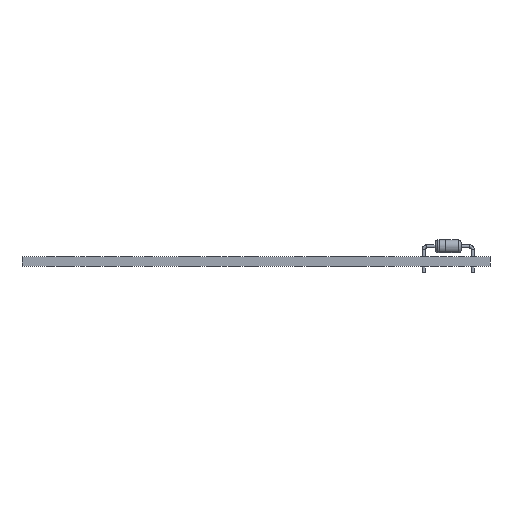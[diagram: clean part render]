
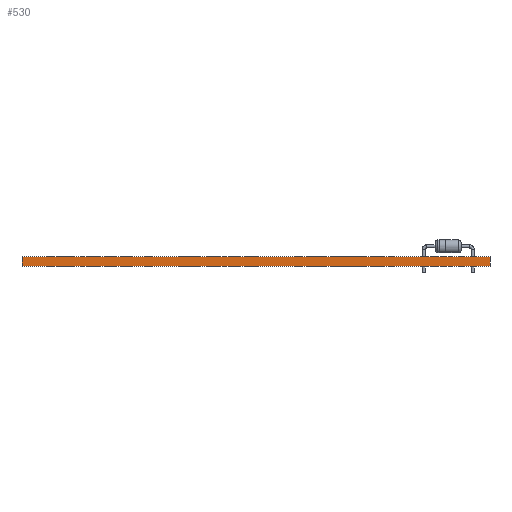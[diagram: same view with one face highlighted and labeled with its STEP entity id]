
A CAD part, front view. The second image highlights one B-rep face of the part: STEP entity #530.
In plain terms, the highlighted planar face has unit normal (0, -1, 0).
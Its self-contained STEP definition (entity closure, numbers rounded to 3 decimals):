
#530 = ADVANCED_FACE('',(#531),#565,.T.);
#531 = FACE_BOUND('',#532,.T.);
#532 = EDGE_LOOP('',(#533,#543,#551,#559));
#533 = ORIENTED_EDGE('',*,*,#534,.T.);
#534 = EDGE_CURVE('',#535,#537,#539,.T.);
#535 = VERTEX_POINT('',#536);
#536 = CARTESIAN_POINT('',(149.5,-155.5,0.));
#537 = VERTEX_POINT('',#538);
#538 = CARTESIAN_POINT('',(149.5,-155.5,1.51));
#539 = LINE('',#540,#541);
#540 = CARTESIAN_POINT('',(149.5,-155.5,0.));
#541 = VECTOR('',#542,1.);
#542 = DIRECTION('',(0.,0.,1.));
#543 = ORIENTED_EDGE('',*,*,#544,.T.);
#544 = EDGE_CURVE('',#537,#545,#547,.T.);
#545 = VERTEX_POINT('',#546);
#546 = CARTESIAN_POINT('',(76.75,-155.5,1.51));
#547 = LINE('',#548,#549);
#548 = CARTESIAN_POINT('',(149.5,-155.5,1.51));
#549 = VECTOR('',#550,1.);
#550 = DIRECTION('',(-1.,0.,0.));
#551 = ORIENTED_EDGE('',*,*,#552,.F.);
#552 = EDGE_CURVE('',#553,#545,#555,.T.);
#553 = VERTEX_POINT('',#554);
#554 = CARTESIAN_POINT('',(76.75,-155.5,0.));
#555 = LINE('',#556,#557);
#556 = CARTESIAN_POINT('',(76.75,-155.5,0.));
#557 = VECTOR('',#558,1.);
#558 = DIRECTION('',(0.,0.,1.));
#559 = ORIENTED_EDGE('',*,*,#560,.F.);
#560 = EDGE_CURVE('',#535,#553,#561,.T.);
#561 = LINE('',#562,#563);
#562 = CARTESIAN_POINT('',(149.5,-155.5,0.));
#563 = VECTOR('',#564,1.);
#564 = DIRECTION('',(-1.,0.,0.));
#565 = PLANE('',#566);
#566 = AXIS2_PLACEMENT_3D('',#567,#568,#569);
#567 = CARTESIAN_POINT('',(149.5,-155.5,0.));
#568 = DIRECTION('',(0.,-1.,0.));
#569 = DIRECTION('',(-1.,0.,0.));
